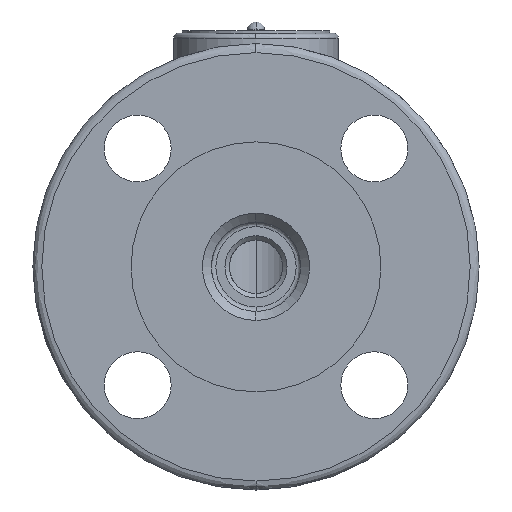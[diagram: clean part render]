
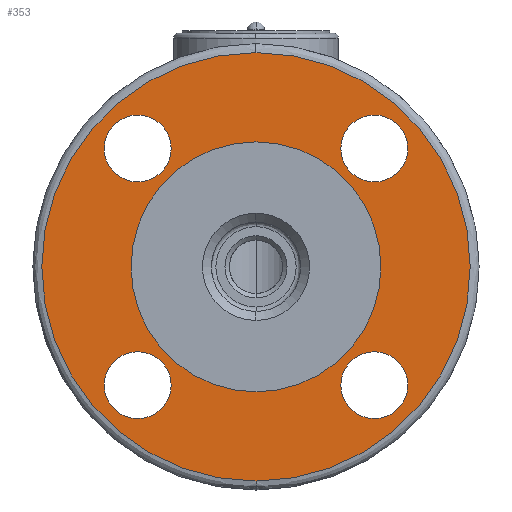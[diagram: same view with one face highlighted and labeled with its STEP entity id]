
A CAD part, left-side view. The second image highlights one B-rep face of the part: STEP entity #353.
In plain terms, the highlighted planar face has unit normal (-1, 0, 0).
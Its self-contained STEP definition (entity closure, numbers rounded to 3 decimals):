
#353=ADVANCED_FACE('',(#1208,#1209,#1210,#1211,#1212,#1213),#1207,.T.);
#1207=PLANE('',#4932);
#1208=FACE_OUTER_BOUND('',#4933,.T.);
#1209=FACE_BOUND('',#4934,.T.);
#1210=FACE_BOUND('',#4935,.T.);
#1211=FACE_BOUND('',#4936,.T.);
#1212=FACE_BOUND('',#4937,.T.);
#1213=FACE_BOUND('',#4938,.T.);
#4929=CARTESIAN_POINT('',(-64.5,-93.138,-106.));
#4930=DIRECTION('',(-1.,0.,0.));
#4931=DIRECTION('',(0.,0.,1.));
#4932=AXIS2_PLACEMENT_3D('',#4929,#4930,#4931);
#4933=EDGE_LOOP('',(#8178,#8179));
#4934=EDGE_LOOP('',(#8180,#8181));
#4935=EDGE_LOOP('',(#8182,#8183));
#4936=EDGE_LOOP('',(#8184,#8185));
#4937=EDGE_LOOP('',(#8186,#8187));
#4938=EDGE_LOOP('',(#8188,#8189));
#8178=ORIENTED_EDGE('',*,*,#9570,.T.);
#8179=ORIENTED_EDGE('',*,*,#9571,.T.);
#8180=ORIENTED_EDGE('',*,*,#9572,.F.);
#8181=ORIENTED_EDGE('',*,*,#9573,.F.);
#8182=ORIENTED_EDGE('',*,*,#9574,.F.);
#8183=ORIENTED_EDGE('',*,*,#9575,.F.);
#8184=ORIENTED_EDGE('',*,*,#9576,.F.);
#8185=ORIENTED_EDGE('',*,*,#9577,.F.);
#8186=ORIENTED_EDGE('',*,*,#9578,.F.);
#8187=ORIENTED_EDGE('',*,*,#9579,.F.);
#8188=ORIENTED_EDGE('',*,*,#9580,.F.);
#8189=ORIENTED_EDGE('',*,*,#9581,.F.);
#9570=EDGE_CURVE('',#11312,#11313,#11314,.T.);
#9571=EDGE_CURVE('',#11313,#11312,#11320,.T.);
#9572=EDGE_CURVE('',#11326,#11327,#11328,.T.);
#9573=EDGE_CURVE('',#11327,#11326,#11334,.T.);
#9574=EDGE_CURVE('',#11340,#11341,#11342,.T.);
#9575=EDGE_CURVE('',#11341,#11340,#11348,.T.);
#9576=EDGE_CURVE('',#11354,#11355,#11356,.T.);
#9577=EDGE_CURVE('',#11355,#11354,#11362,.T.);
#9578=EDGE_CURVE('',#11368,#11369,#11370,.T.);
#9579=EDGE_CURVE('',#11369,#11368,#11376,.T.);
#9580=EDGE_CURVE('',#11382,#11383,#11384,.T.);
#9581=EDGE_CURVE('',#11383,#11382,#11390,.T.);
#11312=VERTEX_POINT('',#16243);
#11313=VERTEX_POINT('',#16244);
#11314=CIRCLE('',#16248,48.);
#11320=CIRCLE('',#16252,48.);
#11326=VERTEX_POINT('',#16253);
#11327=VERTEX_POINT('',#16254);
#11328=CIRCLE('',#16258,7.5);
#11334=CIRCLE('',#16262,7.5);
#11340=VERTEX_POINT('',#16263);
#11341=VERTEX_POINT('',#16264);
#11342=CIRCLE('',#16268,7.5);
#11348=CIRCLE('',#16272,7.5);
#11354=VERTEX_POINT('',#16273);
#11355=VERTEX_POINT('',#16274);
#11356=CIRCLE('',#16278,7.5);
#11362=CIRCLE('',#16282,7.5);
#11368=VERTEX_POINT('',#16283);
#11369=VERTEX_POINT('',#16284);
#11370=CIRCLE('',#16288,7.5);
#11376=CIRCLE('',#16292,7.5);
#11382=VERTEX_POINT('',#16293);
#11383=VERTEX_POINT('',#16294);
#11384=CIRCLE('',#16298,28.);
#11390=CIRCLE('',#16302,28.);
#16243=CARTESIAN_POINT('',(-64.5,0.,48.));
#16244=CARTESIAN_POINT('',(-64.5,0.,-48.));
#16245=CARTESIAN_POINT('',(-64.5,0.,0.));
#16246=DIRECTION('',(-1.,0.,0.));
#16247=DIRECTION('',(0.,0.,1.));
#16248=AXIS2_PLACEMENT_3D('',#16245,#16246,#16247);
#16249=CARTESIAN_POINT('',(-64.5,0.,0.));
#16250=DIRECTION('',(-1.,0.,0.));
#16251=DIRECTION('',(0.,0.,1.));
#16252=AXIS2_PLACEMENT_3D('',#16249,#16250,#16251);
#16253=CARTESIAN_POINT('',(-64.5,-26.517,19.017));
#16254=CARTESIAN_POINT('',(-64.5,-26.517,34.017));
#16255=CARTESIAN_POINT('',(-64.5,-26.517,26.517));
#16256=DIRECTION('',(-1.,0.,0.));
#16257=DIRECTION('',(0.,0.,1.));
#16258=AXIS2_PLACEMENT_3D('',#16255,#16256,#16257);
#16259=CARTESIAN_POINT('',(-64.5,-26.517,26.517));
#16260=DIRECTION('',(-1.,0.,0.));
#16261=DIRECTION('',(0.,0.,1.));
#16262=AXIS2_PLACEMENT_3D('',#16259,#16260,#16261);
#16263=CARTESIAN_POINT('',(-64.5,-26.517,-34.017));
#16264=CARTESIAN_POINT('',(-64.5,-26.517,-19.017));
#16265=CARTESIAN_POINT('',(-64.5,-26.517,-26.517));
#16266=DIRECTION('',(-1.,0.,0.));
#16267=DIRECTION('',(0.,0.,1.));
#16268=AXIS2_PLACEMENT_3D('',#16265,#16266,#16267);
#16269=CARTESIAN_POINT('',(-64.5,-26.517,-26.517));
#16270=DIRECTION('',(-1.,0.,0.));
#16271=DIRECTION('',(0.,0.,1.));
#16272=AXIS2_PLACEMENT_3D('',#16269,#16270,#16271);
#16273=CARTESIAN_POINT('',(-64.5,26.517,-34.017));
#16274=CARTESIAN_POINT('',(-64.5,26.517,-19.017));
#16275=CARTESIAN_POINT('',(-64.5,26.517,-26.517));
#16276=DIRECTION('',(-1.,0.,0.));
#16277=DIRECTION('',(0.,0.,1.));
#16278=AXIS2_PLACEMENT_3D('',#16275,#16276,#16277);
#16279=CARTESIAN_POINT('',(-64.5,26.517,-26.517));
#16280=DIRECTION('',(-1.,0.,0.));
#16281=DIRECTION('',(0.,0.,1.));
#16282=AXIS2_PLACEMENT_3D('',#16279,#16280,#16281);
#16283=CARTESIAN_POINT('',(-64.5,26.517,19.017));
#16284=CARTESIAN_POINT('',(-64.5,26.517,34.017));
#16285=CARTESIAN_POINT('',(-64.5,26.517,26.517));
#16286=DIRECTION('',(-1.,0.,0.));
#16287=DIRECTION('',(0.,0.,1.));
#16288=AXIS2_PLACEMENT_3D('',#16285,#16286,#16287);
#16289=CARTESIAN_POINT('',(-64.5,26.517,26.517));
#16290=DIRECTION('',(-1.,0.,0.));
#16291=DIRECTION('',(0.,0.,1.));
#16292=AXIS2_PLACEMENT_3D('',#16289,#16290,#16291);
#16293=CARTESIAN_POINT('',(-64.5,0.,-28.));
#16294=CARTESIAN_POINT('',(-64.5,0.,28.));
#16295=CARTESIAN_POINT('',(-64.5,0.,0.));
#16296=DIRECTION('',(-1.,0.,0.));
#16297=DIRECTION('',(0.,0.,1.));
#16298=AXIS2_PLACEMENT_3D('',#16295,#16296,#16297);
#16299=CARTESIAN_POINT('',(-64.5,0.,0.));
#16300=DIRECTION('',(-1.,0.,0.));
#16301=DIRECTION('',(0.,0.,1.));
#16302=AXIS2_PLACEMENT_3D('',#16299,#16300,#16301);
